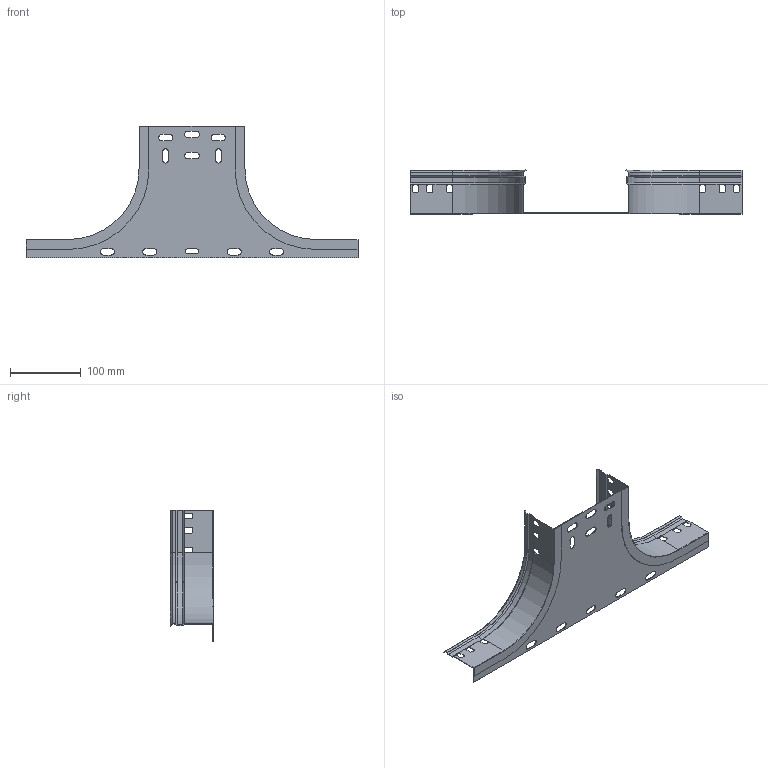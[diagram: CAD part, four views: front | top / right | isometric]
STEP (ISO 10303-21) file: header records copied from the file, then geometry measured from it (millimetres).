
FILE_DESCRIPTION (( 'STEP AP203' ), '1' );
FILE_NAME ('AS 150x60.STEP', '2020-02-12T07:40:50', ( '' ), ( '' ), 'SwSTEP 2.0', 'SolidWorks 2019', '' );
FILE_SCHEMA (( 'CONFIG_CONTROL_DESIGN' ));
Length unit declared in the file: millimetre
Products named in the file (3): ERE_LATERAL AS_60; ERE_BASE AS_150; AS 150x60
Assembly tree (3 placements, depth 2):
  AS 150x60
    ERE_BASE AS_150
    ERE_LATERAL AS_60  x2
Bounding box: 470 x 62 x 185.5 mm (x, y, z)
Volume: 72806.1 mm3; surface area: 164099.2 mm2
Topology: 3 solids, 3 shells, 210 faces, 600 edges, 372 vertices
Faces by surface type: plane 132, cylinder 64, cone 14
Entity records: 4743 total; most frequent: CARTESIAN_POINT 778, ORIENTED_EDGE 768, DIRECTION 766, EDGE_CURVE 384, VECTOR 274, LINE 274, AXIS2_PLACEMENT_3D 246, VERTEX_POINT 242
